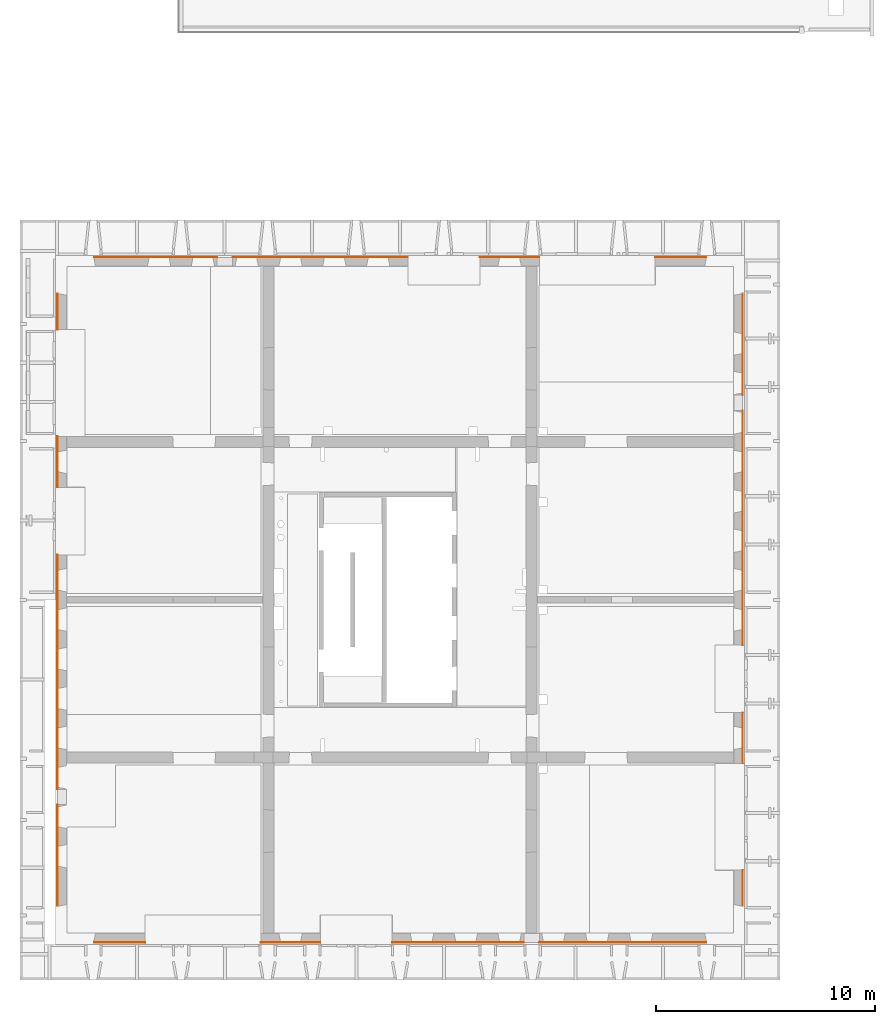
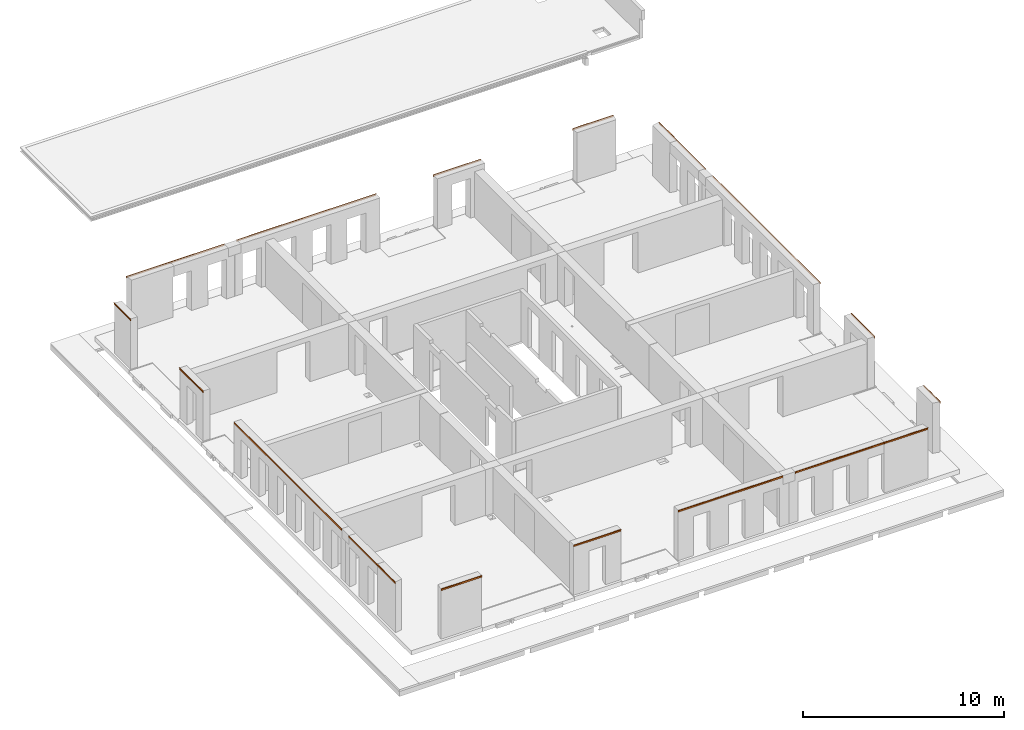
# One storey, part 27 of 27: 20 proxies.
"""IFC2X3 building model written with IfcOpenShell, lengths in millimetres."""

import ifcopenshell
import ifcopenshell.guid

model = None  # the IFC model being written
_history = None  # IfcOwnerHistory: only IFC2X3 demands one
_inside = {}  # id of a spatial element -> (the spatial element, [elements in it])
_under = {}  # id of a project, library or spatial element -> (it, [spatial elements below it])
_declared = {}  # id of a project -> (the project, [libraries it declares])
_typed = {}  # id of a type object -> (the type object, [elements of that type])
_made_of = {}  # id of a material, layer set ... -> (it, [elements and type objects made of it])


def new_model(schema):
    """Start an empty IFC model of exactly this schema.

    Asked for "IFC4X3", IfcOpenShell would pick the latest addendum, in which some entities
    have other attributes; the version numbers below select the first issue.
    IFC2X3 requires an IfcOwnerHistory on every rooted entity: one is made here for all.
    """
    global model, _history
    if schema == "IFC4X3":
        model = ifcopenshell.file(schema_version=(4, 3, 0, 0))
    else:
        model = ifcopenshell.file(schema=schema)
    _inside.clear()
    _under.clear()
    _declared.clear()
    _typed.clear()
    _made_of.clear()
    _history = None
    if model.schema == "IFC2X3":
        org = make("IfcOrganization", Name="unknown")
        user = make(
            "IfcPersonAndOrganization",
            ThePerson=make("IfcPerson", FamilyName="unknown"),
            TheOrganization=org,
        )
        app = make(
            "IfcApplication",
            ApplicationDeveloper=org,
            Version="unknown",
            ApplicationFullName="unknown",
            ApplicationIdentifier="unknown",
        )
        _history = make(
            "IfcOwnerHistory",
            OwningUser=user,
            OwningApplication=app,
            ChangeAction="ADDED",
            CreationDate=0,
        )
    return model


def make(cls, **values):
    """One entity of the class cls with the attributes given. An attribute that is None is left unset."""
    return model.create_entity(
        cls, **{name: value for name, value in values.items() if value is not None}
    )


def entity(cls, *values):
    """Any entity or typed value of the class cls, its attributes in the order of the schema. None: left unset."""
    e = model.create_entity(cls)
    for i, value in enumerate(values):
        if value is not None:
            e[i] = value
    return e


def rooted(cls, **values):
    """An entity with a GlobalId (a new one), such as an element, a storey or a relation."""
    return make(cls, GlobalId=ifcopenshell.guid.new(), OwnerHistory=_history, **values)


def si_unit(unit_type, name, prefix=None):
    """IfcSIUnit, for example si_unit("LENGTHUNIT", "METRE", prefix="MILLI")."""
    return make("IfcSIUnit", UnitType=unit_type, Prefix=prefix, Name=name)


def converted_unit(unit_type, name, factor, base, dimensions=None, offset=None):
    """IfcConversionBasedUnit, such as the inch: factor (a typed value) times the base unit."""
    return make(
        "IfcConversionBasedUnit"
        if offset is None
        else "IfcConversionBasedUnitWithOffset",
        ConversionOffset=offset,
        Dimensions=None
        if dimensions is None
        else entity("IfcDimensionalExponents", *dimensions),
        UnitType=unit_type,
        Name=name,
        ConversionFactor=make(
            "IfcMeasureWithUnit", ValueComponent=factor, UnitComponent=base
        ),
    )


def derived_unit(unit_type, elements):
    """IfcDerivedUnit: a product of units, each with its exponent."""
    return make(
        "IfcDerivedUnit",
        Elements=[
            make("IfcDerivedUnitElement", Unit=unit, Exponent=power)
            for unit, power in elements
        ],
        UnitType=unit_type,
    )


def assignment(units):
    """IfcUnitAssignment: the units of a project."""
    return None if units is None else make("IfcUnitAssignment", Units=units)


def point(xyz):
    """IfcCartesianPoint."""
    return None if xyz is None else make("IfcCartesianPoint", Coordinates=xyz)


def direction(xyz):
    """IfcDirection."""
    return None if xyz is None else make("IfcDirection", DirectionRatios=xyz)


def frame(location, z_axis=None, x_axis=None):
    """IfcAxis2Placement3D, a coordinate frame: its origin and axes. An axis left out is left unset."""
    return make(
        "IfcAxis2Placement3D",
        Location=point(location),
        Axis=direction(z_axis),
        RefDirection=direction(x_axis),
    )


def frame_2d(location, x_axis=None):
    """IfcAxis2Placement2D, a coordinate frame in the plane: its origin and x axis."""
    return make(
        "IfcAxis2Placement2D", Location=point(location), RefDirection=direction(x_axis)
    )


def origin():
    """The frame at (0, 0, 0) with its axes left unset."""
    return frame((0.0, 0.0, 0.0))


def origin_2d_with_axis():
    """The frame at (0, 0) in the plane with the x axis (1, 0) written out."""
    return frame_2d((0.0, 0.0), x_axis=(1.0, 0.0))


def place(relative_to, where):
    """IfcLocalPlacement: puts the frame where relative to a parent placement (None: the world)."""
    return make(
        "IfcLocalPlacement", PlacementRelTo=relative_to, RelativePlacement=where
    )


def context(
    kind, dimensions, precision=None, world=None, true_north=None, identifier=None
):
    """IfcGeometricRepresentationContext, for example the 3D "Model" context."""
    return make(
        "IfcGeometricRepresentationContext",
        ContextIdentifier=identifier,
        ContextType=kind,
        CoordinateSpaceDimension=dimensions,
        Precision=precision,
        WorldCoordinateSystem=world,
        TrueNorth=true_north,
    )


def subcontext(parent, identifier, kind, view, scale=None):
    """IfcGeometricRepresentationSubContext, for example "Body" below "Model"."""
    return make(
        "IfcGeometricRepresentationSubContext",
        ContextIdentifier=identifier,
        ContextType=kind,
        ParentContext=parent,
        TargetScale=scale,
        TargetView=view,
    )


def project(units=None, contexts=None):
    """IfcProject with its units and contexts."""
    return rooted(
        "IfcProject",
        Name="project",
        RepresentationContexts=contexts,
        UnitsInContext=assignment(units),
    )


def spatial(cls, under=None, at=None, **own):
    """A site, building, storey or space (cls), placed at a placement, below another one or the project."""
    s = rooted(cls, ObjectPlacement=at, **own)
    if under is not None:
        _under.setdefault(under.id(), (under, []))[1].append(s)
    return s


def profile(cls, at=None, kind="AREA", **sizes):
    """A parametric profile (cls). Its sizes go by their IFC names, for example OverallWidth=200.0."""
    return make(cls, ProfileType=kind, Position=at, **sizes)


def rectangle(**sizes):
    """IfcRectangleProfileDef."""
    return profile("IfcRectangleProfileDef", **sizes)


def extrude(swept, where, along, depth):
    """IfcExtrudedAreaSolid: the profile swept, set in the frame where, extruded along a direction by depth."""
    return make(
        "IfcExtrudedAreaSolid",
        SweptArea=swept,
        Position=where,
        ExtrudedDirection=direction(along),
        Depth=depth,
    )


def shape(context_of_items, identifier, shape_type, items):
    """IfcShapeRepresentation: the items that make up one representation, for example the "Body"."""
    return make(
        "IfcShapeRepresentation",
        ContextOfItems=context_of_items,
        RepresentationIdentifier=identifier,
        RepresentationType=shape_type,
        Items=items,
    )


def made_of(thing, what):
    """Note that an element or type object is made of a material, layer set ...; save() writes the relation."""
    if what is not None:
        _made_of.setdefault(what.id(), (what, []))[1].append(thing)
    return thing


def element(
    cls,
    number,
    at=None,
    inside=None,
    cuts=None,
    type_object=None,
    material=None,
    context=None,
    identifier="Body",
    shape_type=None,
    held_by="IfcProductDefinitionShape",
    body=None,
    shapes=None,
    **own,
):
    """One element of the class cls, such as IfcWall. Its Tag is "e" and its number.

    at: its placement. inside: the storey or other place that contains it. cuts: it is an
    opening in that element (IfcRelVoidsElement). A single representation is given by context,
    identifier, shape_type and body (its items); several are given by shapes. held_by: the class
    of the entity that holds the representations. save() writes the other relations.
    """
    e = rooted(cls, Tag="e%d" % number, ObjectPlacement=at, **own)
    if body is not None:
        shapes = [shape(context, identifier, shape_type, body)]
    if shapes is not None:
        e.Representation = make(held_by, Representations=shapes)
    if inside is not None:
        _inside.setdefault(inside.id(), (inside, []))[1].append(e)
    if cuts is not None:
        rooted(
            "IfcRelVoidsElement", RelatingBuildingElement=cuts, RelatedOpeningElement=e
        )
    if type_object is not None:
        _typed.setdefault(type_object.id(), (type_object, []))[1].append(e)
    return made_of(e, material)


def aggregate(whole, parts):
    """IfcRelAggregates: a whole, such as a stair, and the parts it consists of."""
    return rooted("IfcRelAggregates", RelatingObject=whole, RelatedObjects=parts)


def save(model, path):
    """Write the relations noted so far, then the file.

    IfcRelAggregates (storeys below a building ...), IfcRelContainedInSpatialStructure (elements
    in a storey), IfcRelDefinesByType, IfcRelAssociatesMaterial and IfcRelDeclares: one each for
    every whole, place, type object, material and project.
    """
    for whole, parts in _under.values():
        aggregate(whole, parts)
    for where, things in _inside.values():
        rooted(
            "IfcRelContainedInSpatialStructure",
            RelatedElements=things,
            RelatingStructure=where,
        )
    for kind, things in _typed.values():
        rooted("IfcRelDefinesByType", RelatedObjects=things, RelatingType=kind)
    for what, things in _made_of.values():
        rooted("IfcRelAssociatesMaterial", RelatedObjects=things, RelatingMaterial=what)
    for by, libraries in _declared.values():
        rooted("IfcRelDeclares", RelatingContext=by, RelatedDefinitions=libraries)
    model.write(path)


model = new_model("IFC2X3")

# Units and contexts
model_context = context("Model", 3, precision=0.01, world=origin(), true_north=direction((6.12303176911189e-17, 1.0)))
body_context = subcontext(model_context, "Body", "Model", "MODEL_VIEW")
ifc_project = project(units=[si_unit("LENGTHUNIT", "METRE", prefix="MILLI"), si_unit("AREAUNIT", "SQUARE_METRE"), si_unit("VOLUMEUNIT", "CUBIC_METRE"), converted_unit("PLANEANGLEUNIT", "DEGREE", entity("IfcRatioMeasure", 0.0174532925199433), si_unit("PLANEANGLEUNIT", "RADIAN"), dimensions=[0, 0, 0, 0, 0, 0, 0]), si_unit("MASSUNIT", "GRAM", prefix="KILO"), derived_unit("MASSDENSITYUNIT", [(si_unit("MASSUNIT", "GRAM", prefix="KILO"), 1), (si_unit("LENGTHUNIT", "METRE"), -3)]), si_unit("TIMEUNIT", "SECOND"), si_unit("FREQUENCYUNIT", "HERTZ"), si_unit("THERMODYNAMICTEMPERATUREUNIT", "DEGREE_CELSIUS"), derived_unit("THERMALTRANSMITTANCEUNIT", [(si_unit("MASSUNIT", "GRAM", prefix="KILO"), 1), (si_unit("THERMODYNAMICTEMPERATUREUNIT", "KELVIN"), -1), (si_unit("TIMEUNIT", "SECOND"), -3)]), derived_unit("VOLUMETRICFLOWRATEUNIT", [(si_unit("LENGTHUNIT", "METRE"), 3), (si_unit("TIMEUNIT", "SECOND"), -1)]), si_unit("ELECTRICCURRENTUNIT", "AMPERE"), si_unit("ELECTRICVOLTAGEUNIT", "VOLT"), si_unit("POWERUNIT", "WATT"), si_unit("FORCEUNIT", "NEWTON", prefix="KILO"), si_unit("ILLUMINANCEUNIT", "LUX"), si_unit("LUMINOUSFLUXUNIT", "LUMEN"), si_unit("LUMINOUSINTENSITYUNIT", "CANDELA"), derived_unit("USERDEFINED", [(si_unit("MASSUNIT", "GRAM", prefix="KILO"), -1), (si_unit("LENGTHUNIT", "METRE"), -2), (si_unit("TIMEUNIT", "SECOND"), 3), (si_unit("LUMINOUSFLUXUNIT", "LUMEN"), 1)]), derived_unit("LINEARVELOCITYUNIT", [(si_unit("LENGTHUNIT", "METRE"), 1), (si_unit("TIMEUNIT", "SECOND"), -1)]), si_unit("PRESSUREUNIT", "PASCAL"), derived_unit("USERDEFINED", [(si_unit("LENGTHUNIT", "METRE"), -2), (si_unit("MASSUNIT", "GRAM", prefix="KILO"), 1), (si_unit("TIMEUNIT", "SECOND"), -2)])], contexts=[model_context])

# Site, building, storey
site_placement = place(None, origin())
site = spatial("IfcSite", under=ifc_project, at=site_placement, Name="Default", CompositionType="ELEMENT")
building_placement = place(site_placement, origin())
building = spatial("IfcBuilding", under=site, at=building_placement, Name="niet gebruiken", CompositionType="ELEMENT")
storey_placement = place(building_placement, frame((0.0, 0.0, 18000.0)))
storey = spatial("IfcBuildingStorey", under=building, at=storey_placement, Name="05 vijfde verdieping", CompositionType="ELEMENT", Elevation=18000.0)

# Proxies
proxy_1_placement = place(storey_placement, origin())
element("IfcBuildingElementProxy", 1, at=proxy_1_placement, inside=storey, context=body_context, shape_type="SweptSolid", body=[
    extrude(rectangle(XDim=2825.00000000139, YDim=19.9999999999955, at=frame_2d((-2.1600499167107e-12, 0.0), x_axis=(1.0, 0.0))), frame((157390.0, 28257.5000000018, 2890.0), z_axis=(0.0, 0.0, 1.0), x_axis=(0.0, -1.0, 0.0)), (0.0, 0.0, 1.0), 99.9999999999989),
])
proxy_2_placement = place(storey_placement, origin())
element("IfcBuildingElementProxy", 2, at=proxy_2_placement, inside=storey, context=body_context, shape_type="SweptSolid", body=[
    extrude(rectangle(XDim=2825.00000000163, YDim=19.9999999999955, at=frame_2d((5.6843418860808e-13, 8.66329230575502e-12), x_axis=(1.0, 0.0))), frame((126110.0, 6742.49999999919, 2890.0), z_axis=(0.0, 0.0, 1.0), x_axis=(0.0, 1.0, 0.0)), (0.0, 0.0, 1.0), 99.9999999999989),
])
proxy_3_placement = place(storey_placement, origin())
element("IfcBuildingElementProxy", 3, at=proxy_3_placement, inside=storey, context=body_context, shape_type="SweptSolid", body=[
    extrude(rectangle(XDim=2320.0, YDim=19.9999999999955, at=frame_2d((0.0, 1.73256964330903e-11), x_axis=(1.0, 0.0))), frame((126110.0, 23800.0, 2890.0), z_axis=(0.0, 0.0, 1.0), x_axis=(0.0, 1.0, 0.0)), (0.0, 0.0, 1.0), 99.9999999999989),
])
proxy_4_placement = place(storey_placement, origin())
element("IfcBuildingElementProxy", 4, at=proxy_4_placement, inside=storey, context=body_context, shape_type="SweptSolid", body=[
    extrude(rectangle(XDim=2319.99999999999, YDim=19.9999999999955, at=frame_2d((0.0, 1.73256964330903e-11), x_axis=(1.0, 0.0))), frame((157390.0, 11200.0, 2890.0), z_axis=(0.0, 0.0, 1.0), x_axis=(0.0, -1.0, 0.0)), (0.0, 0.0, 1.0), 99.9999999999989),
])
proxy_5_placement = place(storey_placement, origin())
element("IfcBuildingElementProxy", 5, at=proxy_5_placement, inside=storey, context=body_context, shape_type="SweptSolid", body=[
    extrude(rectangle(XDim=2720.00000000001, YDim=20.0000000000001, at=frame_2d((0.0, -1.35891298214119e-13), x_axis=(1.0, 0.0))), frame((136750.0, 1860.0, 2890.0), z_axis=(0.0, 0.0, 1.0), x_axis=(-1.0, 0.0, 0.0)), (0.0, 0.0, 1.0), 99.9999999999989),
])
proxy_6_placement = place(storey_placement, origin())
element("IfcBuildingElementProxy", 6, at=proxy_6_placement, inside=storey, context=body_context, shape_type="SweptSolid", body=[
    extrude(rectangle(XDim=2720.00000000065, YDim=19.9999999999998, at=frame_2d((-8.64019966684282e-12, 2.16626716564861e-12), x_axis=(1.0, 0.0))), frame((146750.0, 33140.0, 2890.0)), (0.0, 0.0, 1.0), 99.9999999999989),
])
proxy_7_placement = place(storey_placement, origin())
element("IfcBuildingElementProxy", 7, at=proxy_7_placement, inside=storey, context=body_context, shape_type="SweptSolid", body=[
    extrude(rectangle(XDim=5114.99999999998, YDim=20.0000000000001, at=frame_2d((8.64019966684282e-12, -1.35891298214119e-13), x_axis=(1.0, 0.0))), frame((150662.5, 1860.0, 2890.0), z_axis=(0.0, 0.0, 1.0), x_axis=(-1.0, 0.0, 0.0)), (0.0, 0.0, 1.0), 99.9999999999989),
])
proxy_8_placement = place(storey_placement, origin())
element("IfcBuildingElementProxy", 8, at=proxy_8_placement, inside=storey, context=body_context, shape_type="SweptSolid", body=[
    extrude(rectangle(XDim=3115.00000000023, YDim=19.9999999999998, at=frame_2d((-8.64019966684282e-12, 0.0), x_axis=(1.0, 0.0))), frame((131837.5, 33140.0, 2890.0)), (0.0, 0.0, 1.0), 99.9999999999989),
])
proxy_9_placement = place(storey_placement, origin())
element("IfcBuildingElementProxy", 9, at=proxy_9_placement, inside=storey, context=body_context, shape_type="SweptSolid", body=[
    extrude(rectangle(XDim=2499.99999999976, YDim=20.0000000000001, at=frame_2d((-8.64019966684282e-12, 0.0), x_axis=(1.0, 0.0))), frame((154470.0, 1860.0, 2890.0), z_axis=(0.0, 0.0, 1.0), x_axis=(-1.0, 0.0, 0.0)), (0.0, 0.0, 1.0), 99.9999999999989),
])
proxy_10_placement = place(storey_placement, origin())
element("IfcBuildingElementProxy", 10, at=proxy_10_placement, inside=storey, context=body_context, shape_type="SweptSolid", body=[
    extrude(rectangle(XDim=1629.99999999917, YDim=19.9999999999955, at=origin_2d_with_axis()), frame((157390.0, 4345.0, 2890.0), z_axis=(0.0, 0.0, 1.0), x_axis=(0.0, -1.0, 0.0)), (0.0, 0.0, 1.0), 99.9999999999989),
])
proxy_11_placement = place(storey_placement, origin())
element("IfcBuildingElementProxy", 11, at=proxy_11_placement, inside=storey, context=body_context, shape_type="SweptSolid", body=[
    extrude(rectangle(XDim=2500.0, YDim=19.9999999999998, at=frame_2d((-8.64019966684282e-12, -4.33164615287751e-12), x_axis=(1.0, 0.0))), frame((129030.0, 33140.0, 2890.0)), (0.0, 0.0, 1.0), 99.9999999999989),
])
proxy_12_placement = place(storey_placement, origin())
element("IfcBuildingElementProxy", 12, at=proxy_12_placement, inside=storey, context=body_context, shape_type="SweptSolid", body=[
    extrude(rectangle(XDim=1629.99999999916, YDim=19.9999999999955, at=frame_2d((-2.1600499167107e-12, 8.66329230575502e-12), x_axis=(1.0, 0.0))), frame((126110.0, 30655.0, 2890.0), z_axis=(0.0, 0.0, 1.0), x_axis=(0.0, 1.0, 0.0)), (0.0, 0.0, 1.0), 99.9999999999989),
])
proxy_13_placement = place(storey_placement, origin())
element("IfcBuildingElementProxy", 13, at=proxy_13_placement, inside=storey, context=body_context, shape_type="SweptSolid", body=[
    extrude(rectangle(XDim=2330.00000000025, YDim=20.0000000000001, at=frame_2d((-8.75388650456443e-12, 1.35891298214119e-13), x_axis=(1.0, 0.0))), frame((128945.0, 1860.0, 2890.0), z_axis=(0.0, 0.0, 1.0), x_axis=(-1.0, 0.0, 0.0)), (0.0, 0.0, 1.0), 99.9999999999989),
])
proxy_14_placement = place(storey_placement, origin())
element("IfcBuildingElementProxy", 14, at=proxy_14_placement, inside=storey, context=body_context, shape_type="SweptSolid", body=[
    extrude(rectangle(XDim=1799.99999999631, YDim=19.9999999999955, at=frame_2d((2.8421709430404e-13, 0.0), x_axis=(1.0, 0.0))), frame((126110.0, 4430.0, 2890.0), z_axis=(0.0, 0.0, 1.0), x_axis=(0.0, 1.0, 0.0)), (0.0, 0.0, 1.0), 99.9999999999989),
])
proxy_15_placement = place(storey_placement, origin())
element("IfcBuildingElementProxy", 15, at=proxy_15_placement, inside=storey, context=body_context, shape_type="SweptSolid", body=[
    extrude(rectangle(XDim=2329.99999999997, YDim=19.9999999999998, at=frame_2d((8.64019966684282e-12, -4.33164615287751e-12), x_axis=(1.0, 0.0))), frame((154555.0, 33140.0, 2890.0)), (0.0, 0.0, 1.0), 99.9999999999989),
])
proxy_16_placement = place(storey_placement, origin())
element("IfcBuildingElementProxy", 16, at=proxy_16_placement, inside=storey, context=body_context, shape_type="SweptSolid", body=[
    extrude(rectangle(XDim=1799.9999999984, YDim=19.9999999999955, at=frame_2d((2.21689333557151e-12, 1.73256964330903e-11), x_axis=(1.0, 0.0))), frame((157390.0, 30570.0, 2890.0), z_axis=(0.0, 0.0, 1.0), x_axis=(0.0, -1.0, 0.0)), (0.0, 0.0, 1.0), 99.9999999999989),
])
proxy_17_placement = place(storey_placement, origin())
element("IfcBuildingElementProxy", 17, at=proxy_17_placement, inside=storey, context=body_context, shape_type="SweptSolid", body=[
    extrude(rectangle(XDim=10705.0000000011, YDim=19.9999999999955, at=frame_2d((9.09494701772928e-13, 0.0), x_axis=(1.0, 0.0))), frame((157390.0, 20792.5000000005, 2890.0), z_axis=(0.0, 0.0, 1.0), x_axis=(0.0, -1.0, 0.0)), (0.0, 0.0, 1.0), 99.9999999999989),
])
proxy_18_placement = place(storey_placement, origin())
element("IfcBuildingElementProxy", 18, at=proxy_18_placement, inside=storey, context=body_context, shape_type="SweptSolid", body=[
    extrude(rectangle(XDim=10705.0, YDim=19.9999999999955, at=frame_2d((-4.54747350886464e-13, 8.66329230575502e-12), x_axis=(1.0, 0.0))), frame((126110.0, 14207.5, 2890.0), z_axis=(0.0, 0.0, 1.0), x_axis=(0.0, 1.0, 0.0)), (0.0, 0.0, 1.0), 99.9999999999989),
])
proxy_19_placement = place(storey_placement, origin())
element("IfcBuildingElementProxy", 19, at=proxy_19_placement, inside=storey, context=body_context, shape_type="SweptSolid", body=[
    extrude(rectangle(XDim=6005.00000000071, YDim=20.0000000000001, at=frame_2d((-8.64019966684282e-12, 1.35891298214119e-13), x_axis=(1.0, 0.0))), frame((144392.5, 1860.0, 2890.0), z_axis=(0.0, 0.0, 1.0), x_axis=(-1.0, 0.0, 0.0)), (0.0, 0.0, 1.0), 99.9999999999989),
])
proxy_20_placement = place(storey_placement, origin())
element("IfcBuildingElementProxy", 20, at=proxy_20_placement, inside=storey, context=body_context, shape_type="SweptSolid", body=[
    extrude(rectangle(XDim=8004.99999999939, YDim=19.9999999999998, at=frame_2d((-8.64019966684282e-12, 0.0), x_axis=(1.0, 0.0))), frame((138107.5, 33140.0, 2890.0)), (0.0, 0.0, 1.0), 99.9999999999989),
])

save(model, "model.ifc")
